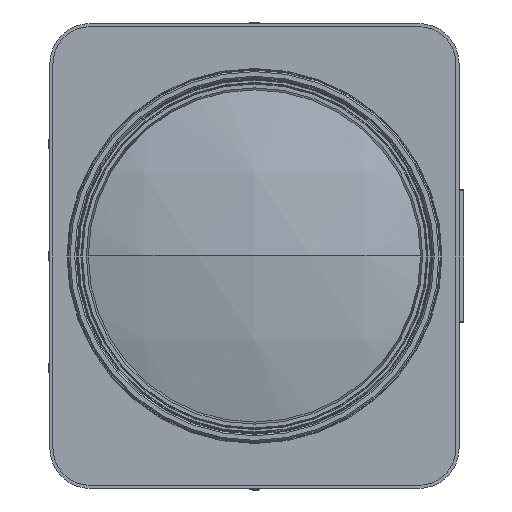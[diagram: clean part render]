
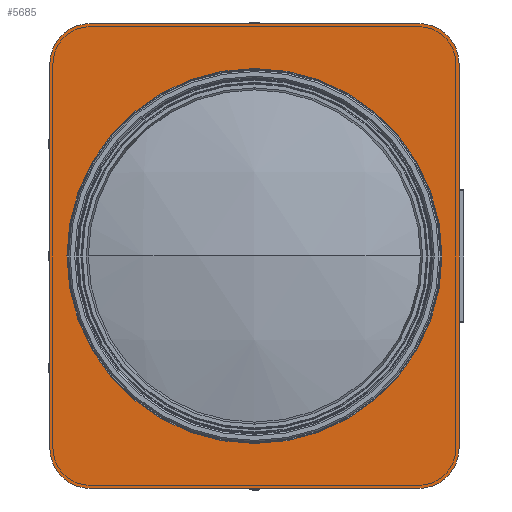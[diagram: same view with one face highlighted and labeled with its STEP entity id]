
A CAD part, left-side view. The second image highlights one B-rep face of the part: STEP entity #5685.
In plain terms, the highlighted planar face has unit normal (-1, 0, 0).
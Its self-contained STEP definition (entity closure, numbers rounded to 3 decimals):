
#415 = CIRCLE ( 'NONE', #1808, 13. ) ;
#432 = DIRECTION ( 'NONE',  ( 0., 0., -1. ) ) ;
#464 = ORIENTED_EDGE ( 'NONE', *, *, #4737, .F. ) ;
#569 = CARTESIAN_POINT ( 'NONE',  ( -428.5, -53., 62. ) ) ;
#694 = ORIENTED_EDGE ( 'NONE', *, *, #3377, .F. ) ;
#697 = CARTESIAN_POINT ( 'NONE',  ( -428.5, -53., -75. ) ) ;
#966 = ORIENTED_EDGE ( 'NONE', *, *, #9479, .F. ) ;
#1148 = CIRCLE ( 'NONE', #2535, 13. ) ;
#1361 = CARTESIAN_POINT ( 'NONE',  ( -428.5, -66., 62. ) ) ;
#1651 = FACE_OUTER_BOUND ( 'NONE', #6378, .T. ) ;
#1727 = DIRECTION ( 'NONE',  ( 1., 0., 0. ) ) ;
#1755 = DIRECTION ( 'NONE',  ( 1., 0., 0. ) ) ;
#1804 = EDGE_CURVE ( 'NONE', #3279, #6138, #10042, .T. ) ;
#1808 = AXIS2_PLACEMENT_3D ( 'NONE', #7624, #1755, #3435 ) ;
#1886 = AXIS2_PLACEMENT_3D ( 'NONE', #7255, #3862, #4694 ) ;
#2159 = VECTOR ( 'NONE', #4352, 1000. ) ;
#2179 = DIRECTION ( 'NONE',  ( 1., 0., 0. ) ) ;
#2272 = CARTESIAN_POINT ( 'NONE',  ( -428.5, 66., -62. ) ) ;
#2431 = CARTESIAN_POINT ( 'NONE',  ( -428.5, 53., -62. ) ) ;
#2472 = PLANE ( 'NONE',  #3513 ) ;
#2517 = VERTEX_POINT ( 'NONE', #9999 ) ;
#2535 = AXIS2_PLACEMENT_3D ( 'NONE', #2431, #1727, #4958 ) ;
#2544 = CARTESIAN_POINT ( 'NONE',  ( -428.5, -53., -62. ) ) ;
#2631 = ORIENTED_EDGE ( 'NONE', *, *, #9561, .F. ) ;
#2887 = VERTEX_POINT ( 'NONE', #5526 ) ;
#3071 = CIRCLE ( 'NONE', #1886, 60.5 ) ;
#3129 = CARTESIAN_POINT ( 'NONE',  ( -428.5, 66., 62. ) ) ;
#3141 = VECTOR ( 'NONE', #432, 1000. ) ;
#3240 = CARTESIAN_POINT ( 'NONE',  ( -428.5, -66., 62. ) ) ;
#3279 = VERTEX_POINT ( 'NONE', #8762 ) ;
#3303 = DIRECTION ( 'NONE',  ( -1., 0., 0. ) ) ;
#3377 = EDGE_CURVE ( 'NONE', #10437, #6653, #9497, .T. ) ;
#3435 = DIRECTION ( 'NONE',  ( 0., 0., -1. ) ) ;
#3513 = AXIS2_PLACEMENT_3D ( 'NONE', #2544, #4177, #9240 ) ;
#3595 = CIRCLE ( 'NONE', #5519, 60.5 ) ;
#3789 = ORIENTED_EDGE ( 'NONE', *, *, #7423, .F. ) ;
#3862 = DIRECTION ( 'NONE',  ( -1., 0., 0. ) ) ;
#3954 = DIRECTION ( 'NONE',  ( 0., 0., 1. ) ) ;
#3987 = CARTESIAN_POINT ( 'NONE',  ( -428.5, 53., 62. ) ) ;
#4034 = CARTESIAN_POINT ( 'NONE',  ( -428.5, 0., 0. ) ) ;
#4054 = LINE ( 'NONE', #8978, #9791 ) ;
#4082 = EDGE_CURVE ( 'NONE', #7225, #2887, #3071, .T. ) ;
#4177 = DIRECTION ( 'NONE',  ( 1., 0., 0. ) ) ;
#4352 = DIRECTION ( 'NONE',  ( 0., -1., 0. ) ) ;
#4593 = VERTEX_POINT ( 'NONE', #5166 ) ;
#4665 = FACE_BOUND ( 'NONE', #5885, .T. ) ;
#4694 = DIRECTION ( 'NONE',  ( 0., 0., 1. ) ) ;
#4737 = EDGE_CURVE ( 'NONE', #2887, #7225, #3595, .T. ) ;
#4855 = DIRECTION ( 'NONE',  ( 1., 0., 0. ) ) ;
#4958 = DIRECTION ( 'NONE',  ( 0., 0., 1. ) ) ;
#5044 = CARTESIAN_POINT ( 'NONE',  ( -428.5, 53., -75. ) ) ;
#5166 = CARTESIAN_POINT ( 'NONE',  ( -428.5, 53., 75. ) ) ;
#5329 = EDGE_CURVE ( 'NONE', #6410, #10437, #1148, .T. ) ;
#5519 = AXIS2_PLACEMENT_3D ( 'NONE', #4034, #3303, #6610 ) ;
#5526 = CARTESIAN_POINT ( 'NONE',  ( -428.5, 0., -60.5 ) ) ;
#5623 = LINE ( 'NONE', #1361, #3141 ) ;
#5685 = ADVANCED_FACE ( 'NONE', ( #4665, #1651 ), #2472, .F. ) ;
#5885 = EDGE_LOOP ( 'NONE', ( #9767, #464 ) ) ;
#6138 = VERTEX_POINT ( 'NONE', #3240 ) ;
#6378 = EDGE_LOOP ( 'NONE', ( #8925, #966, #6824, #8605, #3789, #694, #8290, #2631 ) ) ;
#6410 = VERTEX_POINT ( 'NONE', #5044 ) ;
#6610 = DIRECTION ( 'NONE',  ( 0., 0., 1. ) ) ;
#6653 = VERTEX_POINT ( 'NONE', #8875 ) ;
#6728 = AXIS2_PLACEMENT_3D ( 'NONE', #569, #2179, #9749 ) ;
#6824 = ORIENTED_EDGE ( 'NONE', *, *, #1804, .F. ) ;
#7000 = VECTOR ( 'NONE', #10599, 1000. ) ;
#7218 = LINE ( 'NONE', #10116, #2159 ) ;
#7225 = VERTEX_POINT ( 'NONE', #8525 ) ;
#7255 = CARTESIAN_POINT ( 'NONE',  ( -428.5, 0., 0. ) ) ;
#7355 = DIRECTION ( 'NONE',  ( 0., 1., 0. ) ) ;
#7423 = EDGE_CURVE ( 'NONE', #6653, #4593, #10746, .T. ) ;
#7624 = CARTESIAN_POINT ( 'NONE',  ( -428.5, -53., -62. ) ) ;
#7786 = EDGE_CURVE ( 'NONE', #4593, #3279, #7218, .T. ) ;
#8255 = AXIS2_PLACEMENT_3D ( 'NONE', #3987, #4855, #3954 ) ;
#8290 = ORIENTED_EDGE ( 'NONE', *, *, #5329, .F. ) ;
#8525 = CARTESIAN_POINT ( 'NONE',  ( -428.5, 0., 60.5 ) ) ;
#8605 = ORIENTED_EDGE ( 'NONE', *, *, #7786, .F. ) ;
#8762 = CARTESIAN_POINT ( 'NONE',  ( -428.5, -53., 75. ) ) ;
#8875 = CARTESIAN_POINT ( 'NONE',  ( -428.5, 66., 62. ) ) ;
#8925 = ORIENTED_EDGE ( 'NONE', *, *, #9877, .F. ) ;
#8978 = CARTESIAN_POINT ( 'NONE',  ( -428.5, -53., -75. ) ) ;
#9240 = DIRECTION ( 'NONE',  ( 0., 0., -1. ) ) ;
#9479 = EDGE_CURVE ( 'NONE', #6138, #2517, #5623, .T. ) ;
#9497 = LINE ( 'NONE', #3129, #7000 ) ;
#9561 = EDGE_CURVE ( 'NONE', #9583, #6410, #4054, .T. ) ;
#9583 = VERTEX_POINT ( 'NONE', #697 ) ;
#9749 = DIRECTION ( 'NONE',  ( 0., 0., 1. ) ) ;
#9767 = ORIENTED_EDGE ( 'NONE', *, *, #4082, .F. ) ;
#9791 = VECTOR ( 'NONE', #7355, 1000. ) ;
#9877 = EDGE_CURVE ( 'NONE', #2517, #9583, #415, .T. ) ;
#9999 = CARTESIAN_POINT ( 'NONE',  ( -428.5, -66., -62. ) ) ;
#10042 = CIRCLE ( 'NONE', #6728, 13. ) ;
#10116 = CARTESIAN_POINT ( 'NONE',  ( -428.5, -53., 75. ) ) ;
#10437 = VERTEX_POINT ( 'NONE', #2272 ) ;
#10599 = DIRECTION ( 'NONE',  ( 0., 0., 1. ) ) ;
#10746 = CIRCLE ( 'NONE', #8255, 13. ) ;
